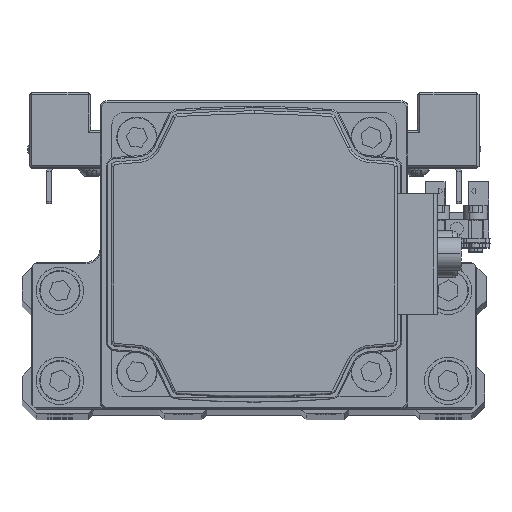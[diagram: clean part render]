
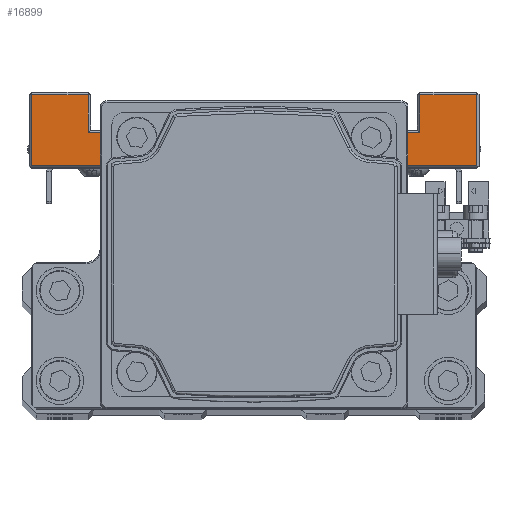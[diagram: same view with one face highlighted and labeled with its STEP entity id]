
A CAD part, top view. The second image highlights one B-rep face of the part: STEP entity #16899.
In plain terms, the highlighted planar face has unit normal (0, 0, 1) as drawn and (1, 0, 0) by its records, which use the part's own axes.
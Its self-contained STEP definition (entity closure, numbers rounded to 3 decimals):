
#44 = EDGE_LOOP ( 'NONE', ( #15914, #11131, #34595, #12055, #2880, #30744, #915, #22703, #40896, #34093, #33145, #7929 ) ) ;
#437 = CARTESIAN_POINT ( 'NONE',  ( 47., 8., -47. ) ) ;
#915 = ORIENTED_EDGE ( 'NONE', *, *, #7004, .T. ) ;
#1787 = DIRECTION ( 'NONE',  ( 0., 0., 1. ) ) ;
#1948 = DIRECTION ( 'NONE',  ( 0., -1., 0. ) ) ;
#2276 = DIRECTION ( 'NONE',  ( 0., 0., 1. ) ) ;
#2864 = DIRECTION ( 'NONE',  ( 0., 0., -1. ) ) ;
#2880 = ORIENTED_EDGE ( 'NONE', *, *, #34042, .T. ) ;
#2895 = VERTEX_POINT ( 'NONE', #437 ) ;
#4461 = EDGE_CURVE ( 'NONE', #35028, #24317, #25187, .T. ) ;
#4856 = VECTOR ( 'NONE', #9110, 1000. ) ;
#7004 = EDGE_CURVE ( 'NONE', #40099, #7847, #8087, .T. ) ;
#7847 = VERTEX_POINT ( 'NONE', #39948 ) ;
#7929 = ORIENTED_EDGE ( 'NONE', *, *, #26029, .T. ) ;
#8087 = LINE ( 'NONE', #20983, #34133 ) ;
#8110 = CARTESIAN_POINT ( 'NONE',  ( 47., 7.5, -47. ) ) ;
#8871 = AXIS2_PLACEMENT_3D ( 'NONE', #41461, #12462, #25401 ) ;
#9074 = VECTOR ( 'NONE', #2276, 1000. ) ;
#9110 = DIRECTION ( 'NONE',  ( 0., -1., 0. ) ) ;
#9276 = VERTEX_POINT ( 'NONE', #15165 ) ;
#9964 = CARTESIAN_POINT ( 'NONE',  ( 47., 15., 35. ) ) ;
#10616 = LINE ( 'NONE', #23538, #39939 ) ;
#10674 = VECTOR ( 'NONE', #21008, 1000. ) ;
#10856 = LINE ( 'NONE', #23781, #38945 ) ;
#11131 = ORIENTED_EDGE ( 'NONE', *, *, #26046, .T. ) ;
#11317 = CARTESIAN_POINT ( 'NONE',  ( 47., 8., -20. ) ) ;
#12055 = ORIENTED_EDGE ( 'NONE', *, *, #37093, .T. ) ;
#12074 = CARTESIAN_POINT ( 'NONE',  ( 47., 15., -35. ) ) ;
#12122 = EDGE_CURVE ( 'NONE', #34967, #16101, #15392, .T. ) ;
#12462 = DIRECTION ( 'NONE',  ( -1., 0., 0. ) ) ;
#12564 = DIRECTION ( 'NONE',  ( 0., 0., -1. ) ) ;
#12789 = DIRECTION ( 'NONE',  ( 0., -1., 0. ) ) ;
#15019 = VECTOR ( 'NONE', #1787, 1000. ) ;
#15165 = CARTESIAN_POINT ( 'NONE',  ( 47., 23., -47. ) ) ;
#15392 = LINE ( 'NONE', #28329, #26004 ) ;
#15582 = CARTESIAN_POINT ( 'NONE',  ( 47., -7.5, -20. ) ) ;
#15644 = FACE_OUTER_BOUND ( 'NONE', #44, .T. ) ;
#15914 = ORIENTED_EDGE ( 'NONE', *, *, #4461, .F. ) ;
#16101 = VERTEX_POINT ( 'NONE', #41630 ) ;
#16899 = ADVANCED_FACE ( 'NONE', ( #15644 ), #28585, .F. ) ;
#17839 = LINE ( 'NONE', #30782, #15019 ) ;
#18008 = LINE ( 'NONE', #30945, #34095 ) ;
#18125 = EDGE_CURVE ( 'NONE', #25082, #40099, #17839, .T. ) ;
#18336 = LINE ( 'NONE', #31286, #9074 ) ;
#18391 = VECTOR ( 'NONE', #12564, 1000. ) ;
#18924 = LINE ( 'NONE', #31875, #36680 ) ;
#19837 = VERTEX_POINT ( 'NONE', #22800 ) ;
#20574 = VERTEX_POINT ( 'NONE', #32064 ) ;
#20983 = CARTESIAN_POINT ( 'NONE',  ( 47., 7.5, 35. ) ) ;
#21008 = DIRECTION ( 'NONE',  ( 0., 1., 0. ) ) ;
#22703 = ORIENTED_EDGE ( 'NONE', *, *, #27685, .T. ) ;
#22800 = CARTESIAN_POINT ( 'NONE',  ( 47., 8., 47. ) ) ;
#22933 = VECTOR ( 'NONE', #12789, 1000. ) ;
#23538 = CARTESIAN_POINT ( 'NONE',  ( 47., 23., -20. ) ) ;
#23696 = CARTESIAN_POINT ( 'NONE',  ( 47., 23., 47. ) ) ;
#23781 = CARTESIAN_POINT ( 'NONE',  ( 47., 8., 20. ) ) ;
#23835 = CARTESIAN_POINT ( 'NONE',  ( 47., 8., 20. ) ) ;
#24317 = VERTEX_POINT ( 'NONE', #15582 ) ;
#25082 = VERTEX_POINT ( 'NONE', #12074 ) ;
#25187 = LINE ( 'NONE', #38095, #4856 ) ;
#25401 = DIRECTION ( 'NONE',  ( 0., 0., 1. ) ) ;
#26004 = VECTOR ( 'NONE', #41202, 1000. ) ;
#26029 = EDGE_CURVE ( 'NONE', #16101, #24317, #18924, .T. ) ;
#26046 = EDGE_CURVE ( 'NONE', #35028, #2895, #28694, .T. ) ;
#27685 = EDGE_CURVE ( 'NONE', #7847, #34485, #18336, .T. ) ;
#28329 = CARTESIAN_POINT ( 'NONE',  ( 47., 7.5, 20. ) ) ;
#28585 = PLANE ( 'NONE',  #8871 ) ;
#28694 = LINE ( 'NONE', #41574, #18391 ) ;
#28929 = LINE ( 'NONE', #41798, #22933 ) ;
#29738 = EDGE_CURVE ( 'NONE', #19837, #34967, #10856, .T. ) ;
#30744 = ORIENTED_EDGE ( 'NONE', *, *, #18125, .T. ) ;
#30782 = CARTESIAN_POINT ( 'NONE',  ( 47., 15., -20. ) ) ;
#30945 = CARTESIAN_POINT ( 'NONE',  ( 47., 7.5, 47. ) ) ;
#31286 = CARTESIAN_POINT ( 'NONE',  ( 47., 23., -20. ) ) ;
#31875 = CARTESIAN_POINT ( 'NONE',  ( 47., -7.5, -20. ) ) ;
#32064 = CARTESIAN_POINT ( 'NONE',  ( 47., 23., -35. ) ) ;
#32584 = EDGE_CURVE ( 'NONE', #2895, #9276, #37116, .T. ) ;
#33145 = ORIENTED_EDGE ( 'NONE', *, *, #12122, .T. ) ;
#33937 = DIRECTION ( 'NONE',  ( 0., 1., 0. ) ) ;
#34042 = EDGE_CURVE ( 'NONE', #20574, #25082, #28929, .T. ) ;
#34093 = ORIENTED_EDGE ( 'NONE', *, *, #29738, .T. ) ;
#34095 = VECTOR ( 'NONE', #1948, 1000. ) ;
#34133 = VECTOR ( 'NONE', #33937, 1000. ) ;
#34485 = VERTEX_POINT ( 'NONE', #23696 ) ;
#34595 = ORIENTED_EDGE ( 'NONE', *, *, #32584, .T. ) ;
#34967 = VERTEX_POINT ( 'NONE', #23835 ) ;
#35028 = VERTEX_POINT ( 'NONE', #11317 ) ;
#36463 = DIRECTION ( 'NONE',  ( 0., 0., 1. ) ) ;
#36680 = VECTOR ( 'NONE', #2864, 1000. ) ;
#36704 = DIRECTION ( 'NONE',  ( 0., 0., -1. ) ) ;
#37093 = EDGE_CURVE ( 'NONE', #9276, #20574, #10616, .T. ) ;
#37116 = LINE ( 'NONE', #8110, #10674 ) ;
#38095 = CARTESIAN_POINT ( 'NONE',  ( 47., 7.5, -20. ) ) ;
#38465 = EDGE_CURVE ( 'NONE', #34485, #19837, #18008, .T. ) ;
#38945 = VECTOR ( 'NONE', #36704, 1000. ) ;
#39939 = VECTOR ( 'NONE', #36463, 1000. ) ;
#39948 = CARTESIAN_POINT ( 'NONE',  ( 47., 23., 35. ) ) ;
#40099 = VERTEX_POINT ( 'NONE', #9964 ) ;
#40896 = ORIENTED_EDGE ( 'NONE', *, *, #38465, .T. ) ;
#41202 = DIRECTION ( 'NONE',  ( 0., -1., 0. ) ) ;
#41461 = CARTESIAN_POINT ( 'NONE',  ( 47., 7.5, -20. ) ) ;
#41574 = CARTESIAN_POINT ( 'NONE',  ( 47., 8., -47. ) ) ;
#41630 = CARTESIAN_POINT ( 'NONE',  ( 47., -7.5, 20. ) ) ;
#41798 = CARTESIAN_POINT ( 'NONE',  ( 47., 7.5, -35. ) ) ;
